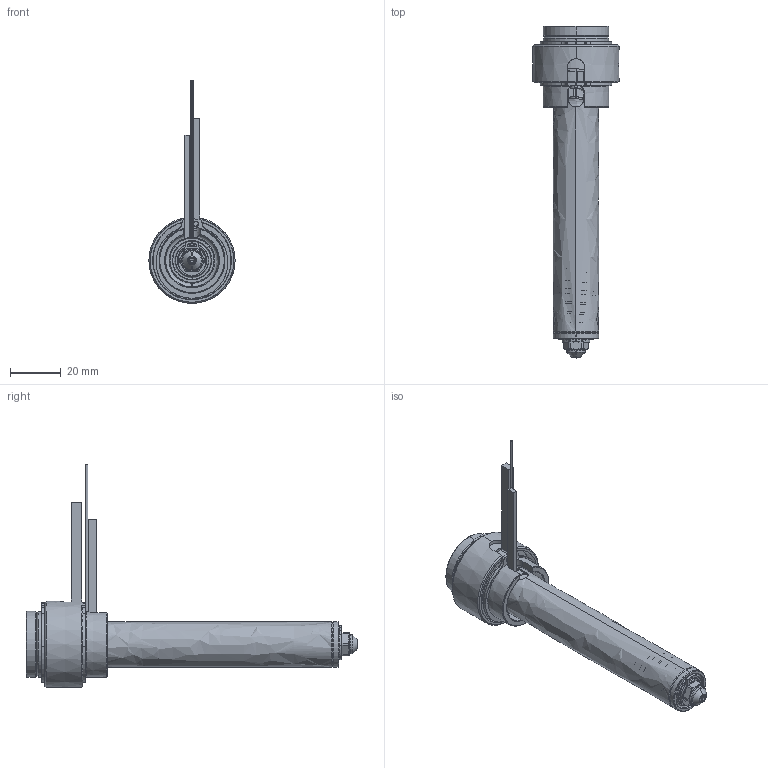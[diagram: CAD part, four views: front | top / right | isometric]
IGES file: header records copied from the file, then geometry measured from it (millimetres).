
Start section: SolidWorks IGES file using analytic representation for surfaces
Global section: file name: C:\Documents and Settings\ws-20\Desktop\TEM\UGER2504-S-A-1 [Øb-1.90 ØC-5.0].IGS; native system: SolidWorks 2012; preprocessor: SolidWorks 2012; author: ws-20; date: 120405.105501; units: millimetre
Bounding box: 34 x 130.9 x 87.9 mm (x, y, z)
Surface area: 22878.2 mm2 (no closed solid volume)
Topology: 0 solids, 0 shells, 195 faces, 2461 edges, 2459 vertices
Faces by surface type: revolution 125, bspline 70
